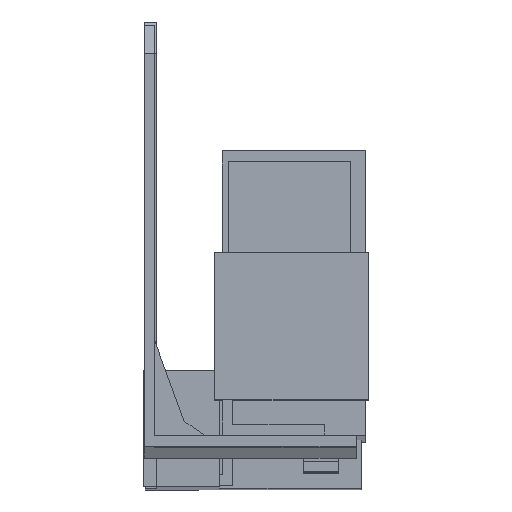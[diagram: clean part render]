
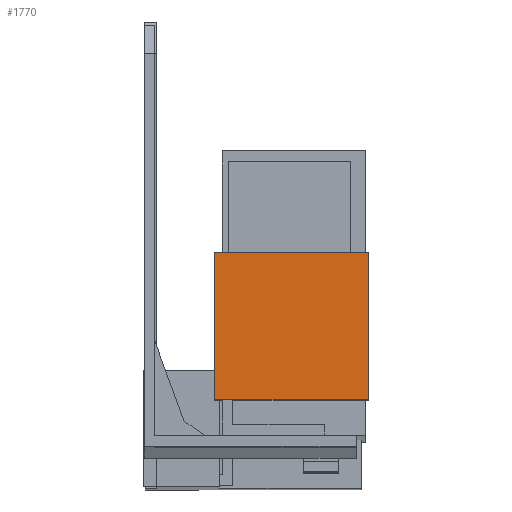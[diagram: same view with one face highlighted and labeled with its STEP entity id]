
A CAD part, front view. The second image highlights one B-rep face of the part: STEP entity #1770.
In plain terms, the highlighted planar face has unit normal (0, -1, 0.003).
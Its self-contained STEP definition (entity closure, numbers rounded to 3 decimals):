
#101 = VECTOR ( 'NONE', #2259, 1000. ) ;
#104 = LINE ( 'NONE', #2258, #101 ) ;
#225 = VECTOR ( 'NONE', #2791, 1000. ) ;
#226 = LINE ( 'NONE', #2790, #225 ) ;
#272 = VECTOR ( 'NONE', #1630, 1000. ) ;
#475 = ORIENTED_EDGE ( 'NONE', *, *, #3690, .F. ) ;
#476 = ORIENTED_EDGE ( 'NONE', *, *, #3591, .T. ) ;
#477 = ORIENTED_EDGE ( 'NONE', *, *, #3829, .F. ) ;
#480 = ORIENTED_EDGE ( 'NONE', *, *, #3626, .F. ) ;
#1193 = LINE ( 'NONE', #1625, #272 ) ;
#1236 = DIRECTION ( 'NONE',  ( -1., 0., 0. ) ) ;
#1587 = CARTESIAN_POINT ( 'NONE',  ( 9.3, -29.009, -40.322 ) ) ;
#1590 = DIRECTION ( 'NONE',  ( 1., 0., 0. ) ) ;
#1625 = CARTESIAN_POINT ( 'NONE',  ( 9.3, -28.952, -19.322 ) ) ;
#1630 = DIRECTION ( 'NONE',  ( 1., 0., 0. ) ) ;
#1770 = ADVANCED_FACE ( 'NONE', ( #2965 ), #4259, .T. ) ;
#1815 = VECTOR ( 'NONE', #1590, 1000. ) ;
#1825 = LINE ( 'NONE', #1587, #1815 ) ;
#2028 = CARTESIAN_POINT ( 'NONE',  ( 31.95, -29.009, -40.322 ) ) ;
#2130 = CARTESIAN_POINT ( 'NONE',  ( 10.05, -28.952, -19.322 ) ) ;
#2133 = CARTESIAN_POINT ( 'NONE',  ( 31.95, -28.952, -19.322 ) ) ;
#2175 = CARTESIAN_POINT ( 'NONE',  ( 10.05, -29.009, -40.322 ) ) ;
#2258 = CARTESIAN_POINT ( 'NONE',  ( 31.95, -28.952, -19.322 ) ) ;
#2259 = DIRECTION ( 'NONE',  ( 0., -0.003, -1. ) ) ;
#2790 = CARTESIAN_POINT ( 'NONE',  ( 10.05, -29.009, -40.322 ) ) ;
#2791 = DIRECTION ( 'NONE',  ( 0., 0.003, 1. ) ) ;
#2965 = FACE_OUTER_BOUND ( 'NONE', #3355, .T. ) ;
#3355 = EDGE_LOOP ( 'NONE', ( #480, #475, #476, #477 ) ) ;
#3591 = EDGE_CURVE ( 'NONE', #4933, #4935, #1825, .T. ) ;
#3626 = EDGE_CURVE ( 'NONE', #4818, #4821, #1193, .T. ) ;
#3690 = EDGE_CURVE ( 'NONE', #4933, #4818, #226, .T. ) ;
#3698 = AXIS2_PLACEMENT_3D ( 'NONE', #4261, #4248, #1236 ) ;
#3829 = EDGE_CURVE ( 'NONE', #4821, #4935, #104, .T. ) ;
#4248 = DIRECTION ( 'NONE',  ( 0., -1., 0.003 ) ) ;
#4259 = PLANE ( 'NONE',  #3698 ) ;
#4261 = CARTESIAN_POINT ( 'NONE',  ( 9.3, -29.009, -40.322 ) ) ;
#4818 = VERTEX_POINT ( 'NONE', #2130 ) ;
#4821 = VERTEX_POINT ( 'NONE', #2133 ) ;
#4933 = VERTEX_POINT ( 'NONE', #2175 ) ;
#4935 = VERTEX_POINT ( 'NONE', #2028 ) ;
